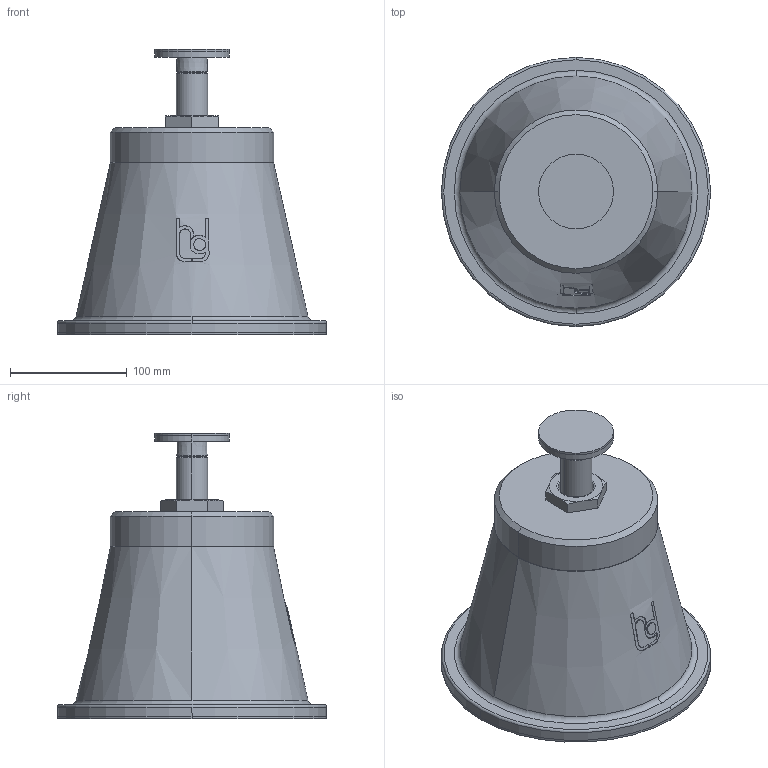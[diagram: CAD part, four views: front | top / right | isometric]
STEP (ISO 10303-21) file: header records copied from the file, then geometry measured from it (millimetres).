
FILE_DESCRIPTION(('STEP AP214'),'1');
FILE_NAME('RSRFN-05-V1.stp','2018-06-29T13:19:38',(' '),(' '),'Spatial InterOp 3D',' ',' ');
FILE_SCHEMA(('automotive_design'));
Length unit declared in the file: millimetre
Products named in the file (6): 1; 2; 3; 4; 5; 6
Bounding box: 230 x 230 x 244 mm (x, y, z)
Volume: 4177778.7 mm3; surface area: 308236 mm2
Topology: 6 solids, 6 shells, 111 faces, 263 edges, 169 vertices
Faces by surface type: cylinder 40, plane 40, cone 23, torus 8
Entity records: 4600 total; most frequent: CARTESIAN_POINT 1007, DIRECTION 563, ORIENTED_EDGE 526, EDGE_CURVE 263, AXIS2_PLACEMENT_3D 225, VERTEX_POINT 169, EDGE_LOOP 118, STYLED_ITEM 117
